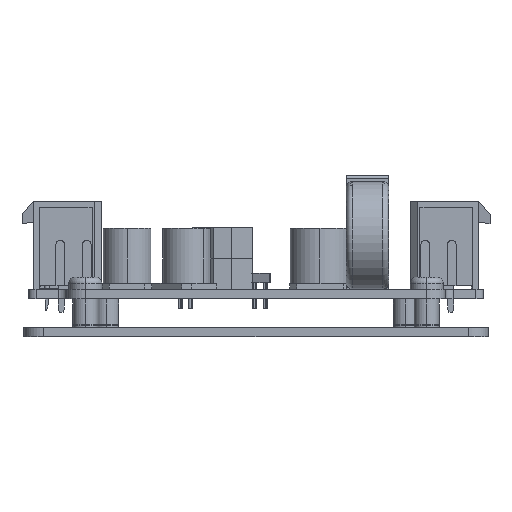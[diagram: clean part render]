
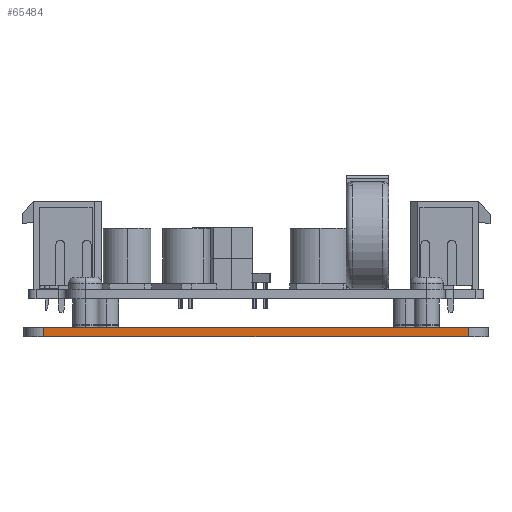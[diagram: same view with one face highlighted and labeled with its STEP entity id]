
A CAD part, left-side view. The second image highlights one B-rep face of the part: STEP entity #65484.
In plain terms, the highlighted planar face has unit normal (-1, 0, 0).
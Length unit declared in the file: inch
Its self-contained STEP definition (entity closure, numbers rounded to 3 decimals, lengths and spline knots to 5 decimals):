
#1826 = CARTESIAN_POINT ( 'NONE',  ( 0., 0.12992, 0. ) ) ;
#1844 = VECTOR ( 'NONE', #29358, 39.37008 ) ;
#4202 = EDGE_CURVE ( 'NONE', #15388, #43007, #7045, .T. ) ;
#4445 = ORIENTED_EDGE ( 'NONE', *, *, #4202, .F. ) ;
#7045 = LINE ( 'NONE', #66227, #1844 ) ;
#8076 = ORIENTED_EDGE ( 'NONE', *, *, #45706, .T. ) ;
#8764 = PLANE ( 'NONE',  #44629 ) ;
#11328 = LINE ( 'NONE', #48734, #47977 ) ;
#15388 = VERTEX_POINT ( 'NONE', #67994 ) ;
#15564 = VERTEX_POINT ( 'NONE', #1826 ) ;
#17382 = DIRECTION ( 'NONE',  ( 0., 0., 1. ) ) ;
#19391 = CARTESIAN_POINT ( 'NONE',  ( 0., 3.06, 0.061 ) ) ;
#19918 = CARTESIAN_POINT ( 'NONE',  ( 0., 0.12992, 0.061 ) ) ;
#23695 = ORIENTED_EDGE ( 'NONE', *, *, #44084, .T. ) ;
#28702 = FACE_OUTER_BOUND ( 'NONE', #56746, .T. ) ;
#29358 = DIRECTION ( 'NONE',  ( 0., -1., 0. ) ) ;
#34339 = EDGE_CURVE ( 'NONE', #15564, #43007, #63868, .T. ) ;
#35917 = VECTOR ( 'NONE', #17382, 39.37008 ) ;
#40533 = LINE ( 'NONE', #51212, #48901 ) ;
#43007 = VERTEX_POINT ( 'NONE', #19918 ) ;
#43835 = CARTESIAN_POINT ( 'NONE',  ( 0., 2.93008, 0. ) ) ;
#44084 = EDGE_CURVE ( 'NONE', #52765, #15564, #40533, .T. ) ;
#44629 = AXIS2_PLACEMENT_3D ( 'NONE', #19391, #56208, #49665 ) ;
#45706 = EDGE_CURVE ( 'NONE', #15388, #52765, #11328, .T. ) ;
#46049 = DIRECTION ( 'NONE',  ( 0., -1., 0. ) ) ;
#47403 = DIRECTION ( 'NONE',  ( 0., 0., -1. ) ) ;
#47977 = VECTOR ( 'NONE', #47403, 39.37008 ) ;
#48734 = CARTESIAN_POINT ( 'NONE',  ( 0., 2.93008, 0.061 ) ) ;
#48901 = VECTOR ( 'NONE', #46049, 39.37008 ) ;
#49665 = DIRECTION ( 'NONE',  ( 0., 0., -1. ) ) ;
#51212 = CARTESIAN_POINT ( 'NONE',  ( 0., 3.06, 0. ) ) ;
#52765 = VERTEX_POINT ( 'NONE', #43835 ) ;
#56208 = DIRECTION ( 'NONE',  ( 1., 0., 0. ) ) ;
#56746 = EDGE_LOOP ( 'NONE', ( #4445, #8076, #23695, #68117 ) ) ;
#63868 = LINE ( 'NONE', #64538, #35917 ) ;
#64538 = CARTESIAN_POINT ( 'NONE',  ( 0., 0.12992, 0.061 ) ) ;
#65484 = ADVANCED_FACE ( 'NONE', ( #28702 ), #8764, .F. ) ;
#66227 = CARTESIAN_POINT ( 'NONE',  ( 0., 3.06, 0.061 ) ) ;
#67994 = CARTESIAN_POINT ( 'NONE',  ( 0., 2.93008, 0.061 ) ) ;
#68117 = ORIENTED_EDGE ( 'NONE', *, *, #34339, .T. ) ;
